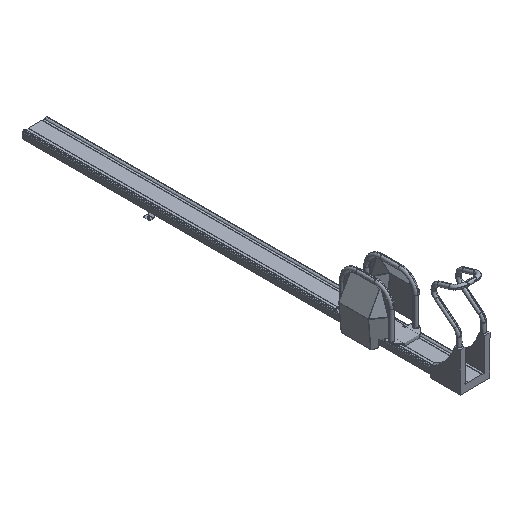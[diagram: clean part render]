
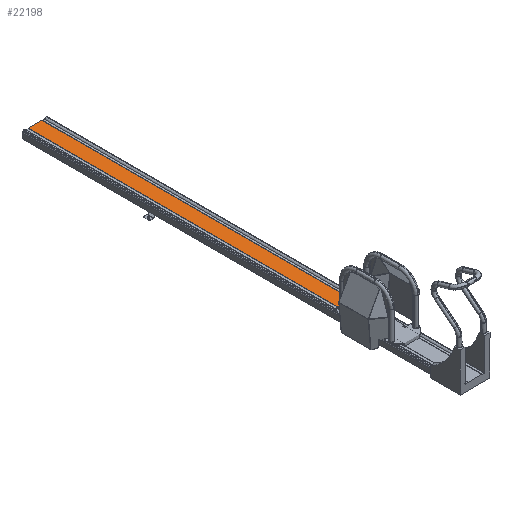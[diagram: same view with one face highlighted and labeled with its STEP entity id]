
A CAD part, isometric view. The second image highlights one B-rep face of the part: STEP entity #22198.
In plain terms, the highlighted planar face has unit normal (0, 0, 1).
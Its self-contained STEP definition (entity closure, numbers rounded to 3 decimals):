
#49 = DIRECTION ( 'NONE',  ( 0., 1., 0. ) ) ;
#277 = CARTESIAN_POINT ( 'NONE',  ( -26.7, 358.5, -214.773 ) ) ;
#1938 = DIRECTION ( 'NONE',  ( -1., 0., 0. ) ) ;
#2865 = EDGE_LOOP ( 'NONE', ( #22002, #7314, #10749, #22610 ) ) ;
#3041 = VERTEX_POINT ( 'NONE', #20977 ) ;
#5557 = EDGE_CURVE ( 'NONE', #25156, #15629, #17567, .T. ) ;
#5679 = VECTOR ( 'NONE', #1938, 1000. ) ;
#6762 = PLANE ( 'NONE',  #7039 ) ;
#7039 = AXIS2_PLACEMENT_3D ( 'NONE', #16658, #18952, #15013 ) ;
#7314 = ORIENTED_EDGE ( 'NONE', *, *, #16992, .F. ) ;
#8447 = VERTEX_POINT ( 'NONE', #17359 ) ;
#10557 = FACE_OUTER_BOUND ( 'NONE', #2865, .T. ) ;
#10638 = CARTESIAN_POINT ( 'NONE',  ( -26.7, -1341.5, -214.773 ) ) ;
#10749 = ORIENTED_EDGE ( 'NONE', *, *, #5557, .T. ) ;
#13774 = VECTOR ( 'NONE', #25432, 1000. ) ;
#14299 = LINE ( 'NONE', #20958, #5679 ) ;
#15013 = DIRECTION ( 'NONE',  ( 1., 0., 0. ) ) ;
#15629 = VERTEX_POINT ( 'NONE', #23252 ) ;
#16658 = CARTESIAN_POINT ( 'NONE',  ( -26.7, -1341.5, -214.773 ) ) ;
#16992 = EDGE_CURVE ( 'NONE', #25156, #3041, #14299, .T. ) ;
#17359 = CARTESIAN_POINT ( 'NONE',  ( -26.7, 358.5, -214.773 ) ) ;
#17567 = LINE ( 'NONE', #21798, #21209 ) ;
#18952 = DIRECTION ( 'NONE',  ( 0., 0., -1. ) ) ;
#19043 = EDGE_CURVE ( 'NONE', #3041, #8447, #25059, .T. ) ;
#20011 = DIRECTION ( 'NONE',  ( 0., 1., 0. ) ) ;
#20958 = CARTESIAN_POINT ( 'NONE',  ( 30., -855.5, -214.773 ) ) ;
#20977 = CARTESIAN_POINT ( 'NONE',  ( -26.7, -855.5, -214.773 ) ) ;
#21209 = VECTOR ( 'NONE', #20011, 1000. ) ;
#21218 = VECTOR ( 'NONE', #49, 1000. ) ;
#21798 = CARTESIAN_POINT ( 'NONE',  ( 26.7, -1341.5, -214.773 ) ) ;
#22002 = ORIENTED_EDGE ( 'NONE', *, *, #19043, .F. ) ;
#22198 = ADVANCED_FACE ( 'NONE', ( #10557 ), #6762, .F. ) ;
#22434 = CARTESIAN_POINT ( 'NONE',  ( 26.7, -855.5, -214.773 ) ) ;
#22610 = ORIENTED_EDGE ( 'NONE', *, *, #26330, .T. ) ;
#23238 = LINE ( 'NONE', #277, #13774 ) ;
#23252 = CARTESIAN_POINT ( 'NONE',  ( 26.7, 358.5, -214.773 ) ) ;
#25059 = LINE ( 'NONE', #10638, #21218 ) ;
#25156 = VERTEX_POINT ( 'NONE', #22434 ) ;
#25432 = DIRECTION ( 'NONE',  ( -1., 0., 0. ) ) ;
#26330 = EDGE_CURVE ( 'NONE', #15629, #8447, #23238, .T. ) ;
